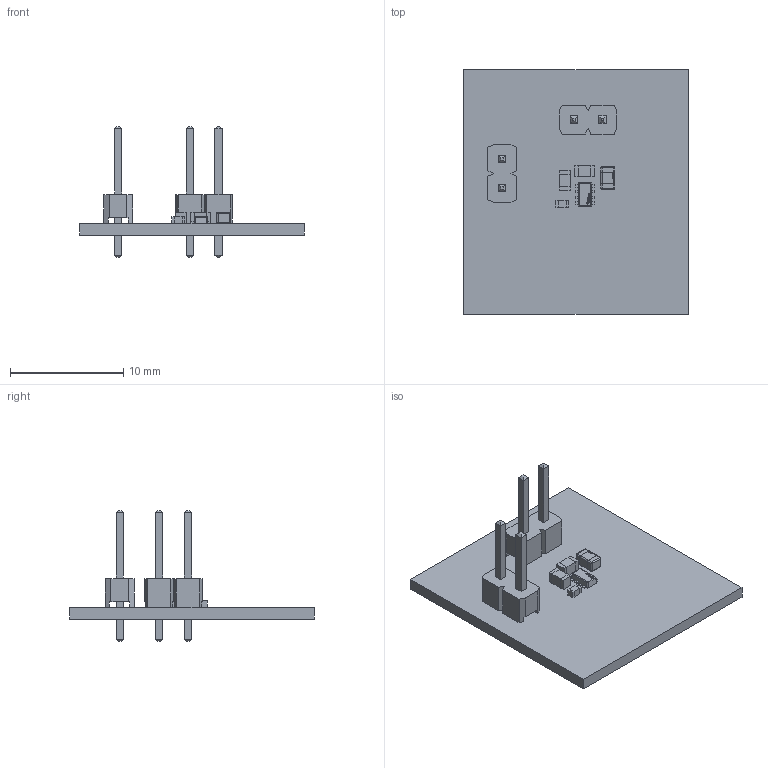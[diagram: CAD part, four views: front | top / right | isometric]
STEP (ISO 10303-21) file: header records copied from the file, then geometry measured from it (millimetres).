
FILE_DESCRIPTION(('Open CASCADE Model'),'2;1');
FILE_NAME('Open CASCADE Shape Model','2021-12-09T18:49:18',('Author'),( 'Open CASCADE'),'Open CASCADE STEP processor 6.8','Open CASCADE 6.8' ,'Unknown');
FILE_SCHEMA(('AUTOMOTIVE_DESIGN { 1 0 10303 214 1 1 1 1 }'));
Length unit declared in the file: millimetre
Products named in the file (34): PCB; Board; Open CASCADE STEP translator 6.8 2.1.1; U1; IC_TPS629210QDRLRQ1_FCSOT8; 1; 2; Texas_Logo_Yury; Texas_Logo_Yury_-_Copy; L1; Ind_DFE201210U-1R5M=P2_0805_(2012); Terminals; Center; Murata; C1; 6024756832; Extruded; 6024756672; J1; 61300211121; 61300211121_2; 61300211121_1; J2; C2; 6024756432; 6024756272; R3; 6024756032; 6024755872
Assembly tree (38 placements, depth 4):
  PCB
    Board
      Open CASCADE STEP translator 6.8 2.1.1
    U1
      IC_TPS629210QDRLRQ1_FCSOT8
        1
        2
        Texas_Logo_Yury
        Texas_Logo_Yury_-_Copy
    L1
      Ind_DFE201210U-1R5M=P2_0805_(2012)
        Terminals
        Center
        Murata
    C1
      6024756832  x2
        Extruded
      6024756672
        Extruded
    J1
      61300211121
        61300211121_2  x2
        61300211121_1
    J2
      61300211121
        61300211121_2  x2
        61300211121_1
    C2
      6024756432  x2
        Extruded
      6024756272
        Extruded
    R3
      6024756032  x2
        Extruded
      6024755872
        Extruded
Bounding box: 19.81 x 21.59 x 11.54 mm (x, y, z)
Volume: 515.6 mm3; surface area: 1275 mm2
Topology: 47 solids, 47 shells, 857 faces, 2225 edges, 1462 vertices
Faces by surface type: plane 574, bspline 170, cylinder 105, sphere 8
Full cylindrical faces by diameter (mm): 1.15 x4
Entity records: 27424 total; most frequent: CARTESIAN_POINT 6903, ORIENTED_EDGE 4030, DIRECTION 3165, EDGE_CURVE 2015, LINE 1469, VECTOR 1469, VERTEX_POINT 1330, AXIS2_PLACEMENT_3D 848
